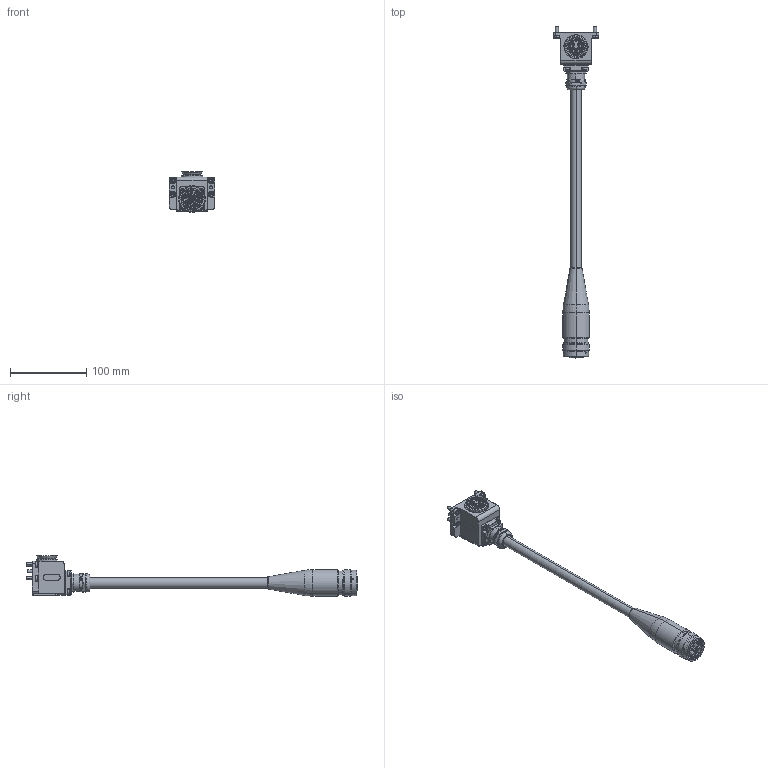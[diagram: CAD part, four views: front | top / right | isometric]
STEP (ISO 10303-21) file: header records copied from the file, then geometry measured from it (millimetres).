
FILE_DESCRIPTION (( 'STEP AP203' ), '1' );
FILE_NAME ('QCSM-16R.STEP', '2024-08-01T01:42:15', ( '微软用户' ), ( '微软中国' ), 'SwSTEP 2.0', 'SolidWorks 2018', '' );
FILE_SCHEMA (( 'CONFIG_CONTROL_DESIGN' ));
Length unit declared in the file: millimetre
Products named in the file (1): QCSM-16R
Bounding box: 60 x 436.69 x 53.42 mm (x, y, z)
Surface area: 77890 mm2 (no closed solid volume)
Topology: 0 solids, 21 shells, 2461 faces, 6557 edges, 4228 vertices
Faces by surface type: plane 1230, cylinder 671, cone 419, torus 96, bspline 33, sphere 12
Entity records: 92520 total; most frequent: CARTESIAN_POINT 38390, ORIENTED_EDGE 12988, DIRECTION 8407, EDGE_CURVE 6512, VERTEX_POINT 4219, B_SPLINE_CURVE_WITH_KNOTS 3852, AXIS2_PLACEMENT_3D 3326, EDGE_LOOP 2705
